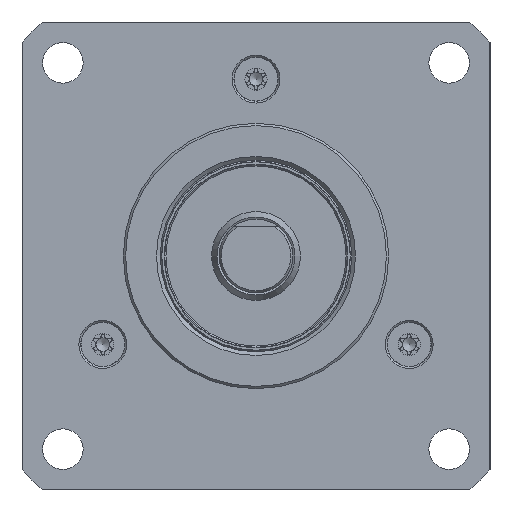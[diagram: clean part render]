
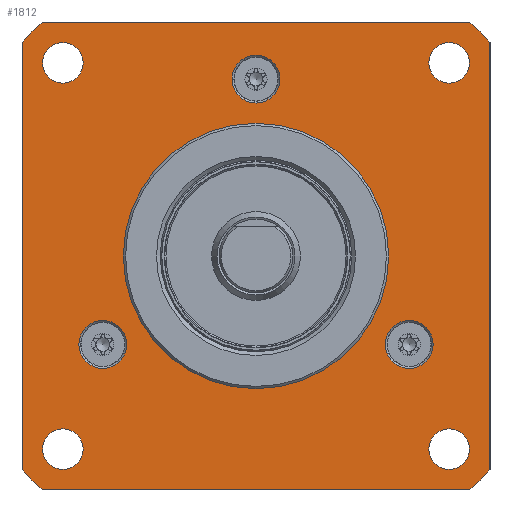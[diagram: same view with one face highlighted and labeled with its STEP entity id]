
A CAD part, left-side view. The second image highlights one B-rep face of the part: STEP entity #1812.
In plain terms, the highlighted planar face has unit normal (-1, 0, 0).
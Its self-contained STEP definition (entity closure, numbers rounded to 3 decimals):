
#1812 = ADVANCED_FACE( '', ( #4087, #4088, #4089, #4090, #4091, #4092, #4093, #4094, #4095 ), #4096, .T. );
#4087 = FACE_OUTER_BOUND( '', #16238, .T. );
#4088 = FACE_BOUND( '', #16239, .T. );
#4089 = FACE_BOUND( '', #16240, .T. );
#4090 = FACE_BOUND( '', #16241, .T. );
#4091 = FACE_BOUND( '', #16242, .T. );
#4092 = FACE_BOUND( '', #16243, .T. );
#4093 = FACE_BOUND( '', #16244, .T. );
#4094 = FACE_BOUND( '', #16245, .T. );
#4095 = FACE_BOUND( '', #16246, .T. );
#4096 = PLANE( '', #16247 );
#16238 = EDGE_LOOP( '', ( #27142, #27143, #27144, #27145, #27146, #27147, #27148, #27149 ) );
#16239 = EDGE_LOOP( '', ( #27150 ) );
#16240 = EDGE_LOOP( '', ( #27151 ) );
#16241 = EDGE_LOOP( '', ( #27152 ) );
#16242 = EDGE_LOOP( '', ( #27153 ) );
#16243 = EDGE_LOOP( '', ( #27154 ) );
#16244 = EDGE_LOOP( '', ( #27155 ) );
#16245 = EDGE_LOOP( '', ( #27156 ) );
#16246 = EDGE_LOOP( '', ( #27157 ) );
#16247 = AXIS2_PLACEMENT_3D( '', #27158, #27159, #27160 );
#27142 = ORIENTED_EDGE( '', *, *, #31519, .F. );
#27143 = ORIENTED_EDGE( '', *, *, #30732, .F. );
#27144 = ORIENTED_EDGE( '', *, *, #31520, .F. );
#27145 = ORIENTED_EDGE( '', *, *, #31521, .F. );
#27146 = ORIENTED_EDGE( '', *, *, #30687, .F. );
#27147 = ORIENTED_EDGE( '', *, *, #31522, .F. );
#27148 = ORIENTED_EDGE( '', *, *, #31523, .F. );
#27149 = ORIENTED_EDGE( '', *, *, #31524, .F. );
#27150 = ORIENTED_EDGE( '', *, *, #31155, .T. );
#27151 = ORIENTED_EDGE( '', *, *, #31525, .T. );
#27152 = ORIENTED_EDGE( '', *, *, #31526, .T. );
#27153 = ORIENTED_EDGE( '', *, *, #31527, .F. );
#27154 = ORIENTED_EDGE( '', *, *, #31332, .F. );
#27155 = ORIENTED_EDGE( '', *, *, #31528, .F. );
#27156 = ORIENTED_EDGE( '', *, *, #31529, .F. );
#27157 = ORIENTED_EDGE( '', *, *, #31444, .F. );
#27158 = CARTESIAN_POINT( '', ( 7.62, -0.449, 0. ) );
#27159 = DIRECTION( '', ( -1., 0., 0. ) );
#27160 = DIRECTION( '', ( 0., 0., 1. ) );
#30687 = EDGE_CURVE( '', #33883, #33884, #33885, .T. );
#30732 = EDGE_CURVE( '', #33949, #33950, #33951, .T. );
#31155 = EDGE_CURVE( '', #34575, #34575, #34576, .T. );
#31332 = EDGE_CURVE( '', #34806, #34806, #34807, .T. );
#31444 = EDGE_CURVE( '', #34952, #34952, #34953, .T. );
#31519 = EDGE_CURVE( '', #33950, #35045, #35046, .T. );
#31520 = EDGE_CURVE( '', #35047, #33949, #35048, .T. );
#31521 = EDGE_CURVE( '', #33884, #35047, #35049, .T. );
#31522 = EDGE_CURVE( '', #35050, #33883, #35051, .T. );
#31523 = EDGE_CURVE( '', #35052, #35050, #35053, .T. );
#31524 = EDGE_CURVE( '', #35045, #35052, #35054, .T. );
#31525 = EDGE_CURVE( '', #35055, #35055, #35056, .T. );
#31526 = EDGE_CURVE( '', #35057, #35057, #35058, .T. );
#31527 = EDGE_CURVE( '', #35059, #35059, #35060, .T. );
#31528 = EDGE_CURVE( '', #35061, #35061, #35062, .T. );
#31529 = EDGE_CURVE( '', #35063, #35063, #35064, .T. );
#33883 = VERTEX_POINT( '', #41292 );
#33884 = VERTEX_POINT( '', #41293 );
#33885 = CIRCLE( '', #41294, 43. );
#33949 = VERTEX_POINT( '', #41503 );
#33950 = VERTEX_POINT( '', #41504 );
#33951 = LINE( '', #41505, #41506 );
#34575 = VERTEX_POINT( '', #43842 );
#34576 = CIRCLE( '', #43843, 3.25 );
#34806 = VERTEX_POINT( '', #44616 );
#34807 = CIRCLE( '', #44617, 2.75 );
#34952 = VERTEX_POINT( '', #45221 );
#34953 = CIRCLE( '', #45222, 18. );
#35045 = VERTEX_POINT( '', #45557 );
#35046 = CIRCLE( '', #45558, 43. );
#35047 = VERTEX_POINT( '', #45559 );
#35048 = CIRCLE( '', #45560, 43. );
#35049 = LINE( '', #45561, #45562 );
#35050 = VERTEX_POINT( '', #45563 );
#35051 = LINE( '', #45564, #45565 );
#35052 = VERTEX_POINT( '', #45566 );
#35053 = CIRCLE( '', #45567, 43. );
#35054 = LINE( '', #45568, #45569 );
#35055 = VERTEX_POINT( '', #45570 );
#35056 = CIRCLE( '', #45571, 3.25 );
#35057 = VERTEX_POINT( '', #45572 );
#35058 = CIRCLE( '', #45573, 3.25 );
#35059 = VERTEX_POINT( '', #45574 );
#35060 = CIRCLE( '', #45575, 2.75 );
#35061 = VERTEX_POINT( '', #45576 );
#35062 = CIRCLE( '', #45577, 2.75 );
#35063 = VERTEX_POINT( '', #45578 );
#35064 = CIRCLE( '', #45579, 2.75 );
#41292 = CARTESIAN_POINT( '', ( 7.62, 31.75, 28.999 ) );
#41293 = CARTESIAN_POINT( '', ( 7.62, 28.999, 31.75 ) );
#41294 = AXIS2_PLACEMENT_3D( '', #48478, #48479, #48480 );
#41503 = CARTESIAN_POINT( '', ( 7.62, -31.75, 28.999 ) );
#41504 = CARTESIAN_POINT( '', ( 7.62, -31.75, -28.999 ) );
#41505 = CARTESIAN_POINT( '', ( 7.62, -31.75, -28.999 ) );
#41506 = VECTOR( '', #48528, 1000. );
#43842 = CARTESIAN_POINT( '', ( 7.62, 23.599, -13.625 ) );
#43843 = AXIS2_PLACEMENT_3D( '', #48833, #48834, #48835 );
#44616 = CARTESIAN_POINT( '', ( 7.62, -28.95, 26.2 ) );
#44617 = AXIS2_PLACEMENT_3D( '', #48998, #48999, #49000 );
#45221 = CARTESIAN_POINT( '', ( 7.62, -18., 0. ) );
#45222 = AXIS2_PLACEMENT_3D( '', #49059, #49060, #49061 );
#45557 = CARTESIAN_POINT( '', ( 7.62, -28.999, -31.75 ) );
#45558 = AXIS2_PLACEMENT_3D( '', #49117, #49118, #49119 );
#45559 = CARTESIAN_POINT( '', ( 7.62, -28.999, 31.75 ) );
#45560 = AXIS2_PLACEMENT_3D( '', #49120, #49121, #49122 );
#45561 = CARTESIAN_POINT( '', ( 7.62, -28.999, 31.75 ) );
#45562 = VECTOR( '', #49123, 1000. );
#45563 = CARTESIAN_POINT( '', ( 7.62, 31.75, -28.999 ) );
#45564 = CARTESIAN_POINT( '', ( 7.62, 31.75, 28.999 ) );
#45565 = VECTOR( '', #49124, 1000. );
#45566 = CARTESIAN_POINT( '', ( 7.62, 28.999, -31.75 ) );
#45567 = AXIS2_PLACEMENT_3D( '', #49125, #49126, #49127 );
#45568 = CARTESIAN_POINT( '', ( 7.62, 28.999, -31.75 ) );
#45569 = VECTOR( '', #49128, 1000. );
#45570 = CARTESIAN_POINT( '', ( 7.62, -23.599, -13.625 ) );
#45571 = AXIS2_PLACEMENT_3D( '', #49129, #49130, #49131 );
#45572 = CARTESIAN_POINT( '', ( 7.62, 0., 27.25 ) );
#45573 = AXIS2_PLACEMENT_3D( '', #49132, #49133, #49134 );
#45574 = CARTESIAN_POINT( '', ( 7.62, 23.45, 26.2 ) );
#45575 = AXIS2_PLACEMENT_3D( '', #49135, #49136, #49137 );
#45576 = CARTESIAN_POINT( '', ( 7.62, -28.95, -26.2 ) );
#45577 = AXIS2_PLACEMENT_3D( '', #49138, #49139, #49140 );
#45578 = CARTESIAN_POINT( '', ( 7.62, 23.45, -26.2 ) );
#45579 = AXIS2_PLACEMENT_3D( '', #49141, #49142, #49143 );
#48478 = CARTESIAN_POINT( '', ( 7.62, 0., 0. ) );
#48479 = DIRECTION( '', ( 1., 0., 0. ) );
#48480 = DIRECTION( '', ( 0., -1., 0. ) );
#48528 = DIRECTION( '', ( 0., 0., -1. ) );
#48833 = CARTESIAN_POINT( '', ( 7.62, 20.785, -12. ) );
#48834 = DIRECTION( '', ( 1., 0., 0. ) );
#48835 = DIRECTION( '', ( 0., 0.866, -0.5 ) );
#48998 = CARTESIAN_POINT( '', ( 7.62, -26.2, 26.2 ) );
#48999 = DIRECTION( '', ( -1., 0., 0. ) );
#49000 = DIRECTION( '', ( 0., -1., 0. ) );
#49059 = CARTESIAN_POINT( '', ( 7.62, 0., 0. ) );
#49060 = DIRECTION( '', ( -1., 0., 0. ) );
#49061 = DIRECTION( '', ( 0., -1., 0. ) );
#49117 = CARTESIAN_POINT( '', ( 7.62, 0., 0. ) );
#49118 = DIRECTION( '', ( 1., 0., 0. ) );
#49119 = DIRECTION( '', ( 0., -1., 0. ) );
#49120 = CARTESIAN_POINT( '', ( 7.62, 0., 0. ) );
#49121 = DIRECTION( '', ( 1., 0., 0. ) );
#49122 = DIRECTION( '', ( 0., -1., 0. ) );
#49123 = DIRECTION( '', ( 0., -1., 0. ) );
#49124 = DIRECTION( '', ( 0., 0., 1. ) );
#49125 = CARTESIAN_POINT( '', ( 7.62, 0., 0. ) );
#49126 = DIRECTION( '', ( 1., 0., 0. ) );
#49127 = DIRECTION( '', ( 0., -1., 0. ) );
#49128 = DIRECTION( '', ( 0., 1., 0. ) );
#49129 = CARTESIAN_POINT( '', ( 7.62, -20.785, -12. ) );
#49130 = DIRECTION( '', ( 1., 0., 0. ) );
#49131 = DIRECTION( '', ( 0., -0.866, -0.5 ) );
#49132 = CARTESIAN_POINT( '', ( 7.62, 0., 24. ) );
#49133 = DIRECTION( '', ( 1., 0., 0. ) );
#49134 = DIRECTION( '', ( 0., 0., 1. ) );
#49135 = CARTESIAN_POINT( '', ( 7.62, 26.2, 26.2 ) );
#49136 = DIRECTION( '', ( -1., 0., 0. ) );
#49137 = DIRECTION( '', ( 0., -1., 0. ) );
#49138 = CARTESIAN_POINT( '', ( 7.62, -26.2, -26.2 ) );
#49139 = DIRECTION( '', ( -1., 0., 0. ) );
#49140 = DIRECTION( '', ( 0., -1., 0. ) );
#49141 = CARTESIAN_POINT( '', ( 7.62, 26.2, -26.2 ) );
#49142 = DIRECTION( '', ( -1., 0., 0. ) );
#49143 = DIRECTION( '', ( 0., -1., 0. ) );
